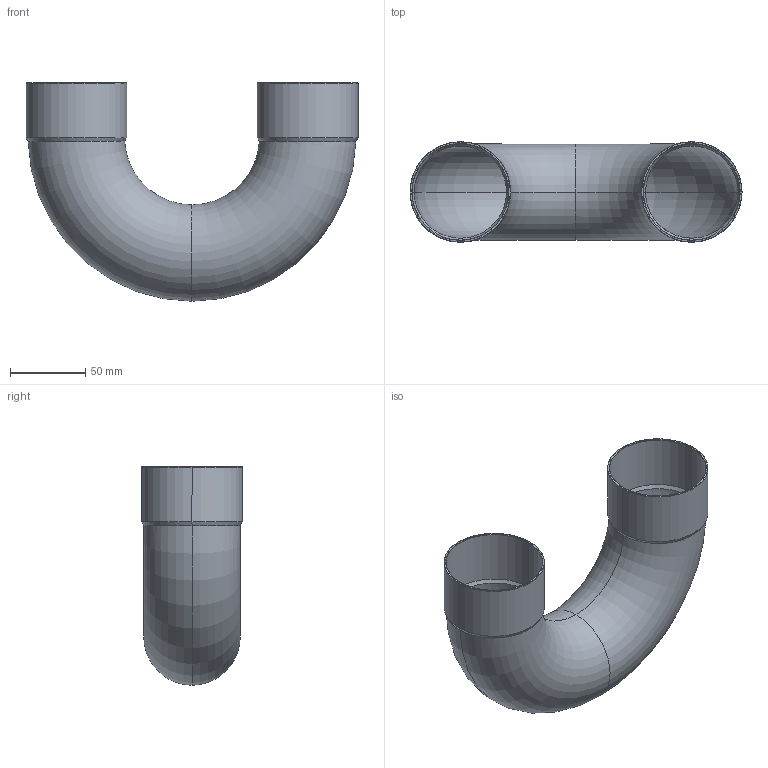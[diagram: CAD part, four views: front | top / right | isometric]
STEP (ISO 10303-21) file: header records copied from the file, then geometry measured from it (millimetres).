
FILE_DESCRIPTION((''),'2;1');
FILE_NAME('C:\sanha_work\5130\f\1506064.stp','2005-10-21T17:22:39',('Kris'),(''),'Autodesk Inventor 8','Autodesk Inventor 8','');
FILE_SCHEMA(('AUTOMOTIVE_DESIGN { 1 0 10303 214 1 1 1 1 }'));
Length unit declared in the file: millimetre
Products named in the file (1): 1506064
Bounding box: 220.4 x 66.8 x 145 mm (x, y, z)
Volume: 87481.5 mm3; surface area: 125475.8 mm2
Topology: 1 solids, 1 shells, 34 faces, 68 edges, 36 vertices
Faces by surface type: cone 12, bspline 9, torus 8, cylinder 4, plane 1
Entity records: 1139 total; most frequent: CARTESIAN_POINT 438, DIRECTION 148, ORIENTED_EDGE 136, EDGE_CURVE 68, AXIS2_PLACEMENT_3D 62, VERTEX_POINT 36, CIRCLE 36, EDGE_LOOP 36
